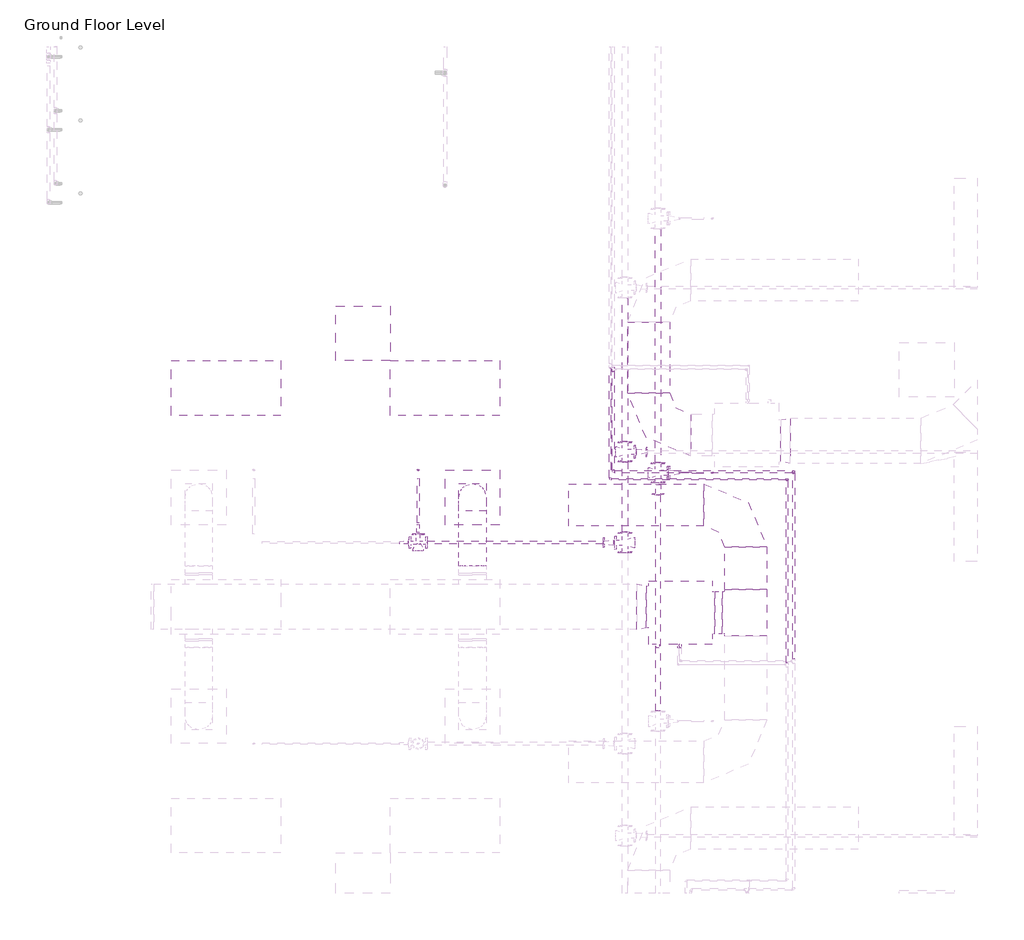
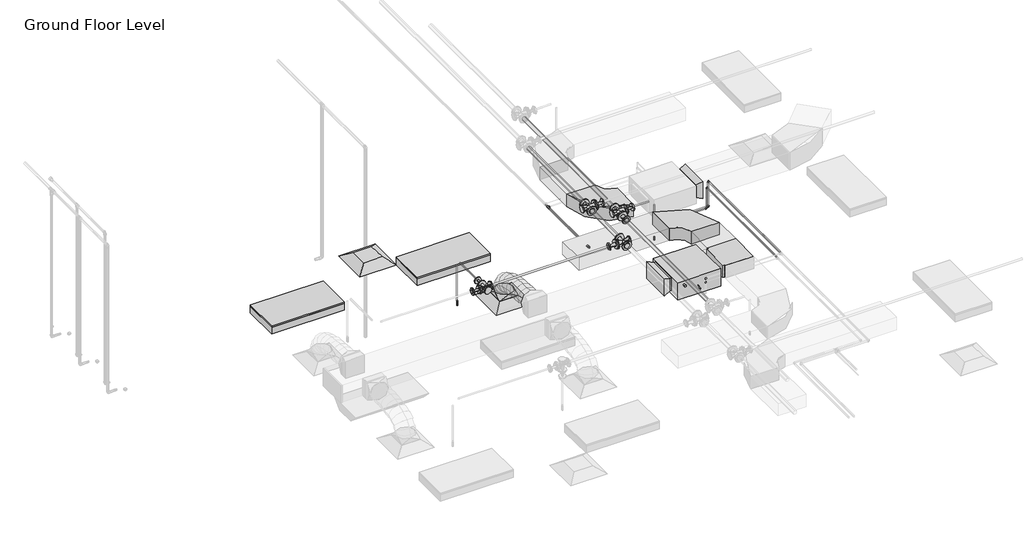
# One storey, part 61 of 72: 17 pipe fittings, 17 pipe segments, 6 duct fittings, 5 duct segments, 2 air terminals, 2 fire suppression terminals, 2 light fixtures, 1 proxy.
"""IFC4 building model written with IfcOpenShell, lengths in millimetres."""

from ifc_helpers import new_model, si_unit, point, frame, frame_2d, origin, place, context, project, spatial, polyline, circle_curve, ellipse_curve, trimmed, segment, composite_curve, outline, extrude, transform, mapped, element, save
from ifc_brep_helpers import plane_surface, cylinder_surface, advanced_brep
from components import m_return_diffuser_600_x_600_face_300_x_300_connection_ff221211, fcu_daikin_iu_bad131e0, m_rectangular_elbow_radius_1_w_54c96895, m_rectangular_tee_standard_fa4de0e8, m_rectangular_transition_angle_45_degree_2b595dfe, m_rectangular_to_round_transition_angle_45_degree_641efff0, m_sprinkler_dry_pendent_hosted_15_mm_dry_pendent_9bda8e11, m_sprinkler_pendent_15_mm_pendent_06fcbd8e, m_troffer_light_parabolic_rectangular1_0600x1200mm_4_lamp_86473d4a, m_elbow_generic_standard_73005802, m_elbow_generic_standard_bb5ffebe, m_reducer_flanged_cs_class_150_standard_ccf252ad, m_reducer_flanged_cs_class_150_standard_9dfe9ec5, m_reducer_flanged_cs_class_150_standard_3ab32b2b, m_reducer_flanged_cs_class_150_standard_a7631c35, m_tee_generic_standard_bbfc025c, m_tee_round_base_flanged_cs_class_150_standard_dd767e04, m_tee_round_base_flanged_cs_class_150_standard_7e5987a1

model = new_model("IFC4")

# Units and contexts
model_context = context("Model", 3, world=origin())
ifc_project = project(units=[si_unit("LENGTHUNIT", "METRE", prefix="MILLI")], contexts=[model_context])

# Site, building, storey
site = spatial("IfcSite", under=ifc_project)
building = spatial("IfcBuilding", under=site)
storey = spatial("IfcBuildingStorey", under=building, Name="Ground Floor Level", Elevation=900.0)

# Air terminals
placement = place(None, origin())
m_return_diffuser_600_x_600_face_300_x_300_connection_shape = m_return_diffuser_600_x_600_face_300_x_300_connection_ff221211(model_context)
element("IfcAirTerminal", 1, ObjectType="M_Return Diffuser : 600 x 600 Face 300 x 300 Connection", at=placement, inside=storey, context=model_context, shape_type="MappedRepresentation", body=[
    mapped(m_return_diffuser_600_x_600_face_300_x_300_connection_shape, transform((2762.7672395, 7135.2153534, 3650.0), x_axis=(1.0, 0.0, 0.0), y_axis=(0.0, 1.0, 0.0), z_axis=(0.0, 0.0, 1.0))),
])
element("IfcAirTerminal", 2, ObjectType="M_Supply Diffuser : 600 x 600 Face 300 x 300 Connection", at=placement, inside=storey, context=model_context, shape_type="MappedRepresentation", body=[
    mapped(m_return_diffuser_600_x_600_face_300_x_300_connection_shape, transform((3962.7672395, 5335.2153534, 3650.0), x_axis=(1.0, 0.0, 0.0), y_axis=(0.0, 1.0, 0.0), z_axis=(0.0, 0.0, 1.0))),
])

# Proxy
fcu_daikin_iu_shape = fcu_daikin_iu_bad131e0(model_context)
element("IfcBuildingElementProxy", 3, Name="FCU-DAIKIN IU : 4.5kW, 230V/50Hz/1Ph", ObjectType="FCU-DAIKIN IU : 4.5kW, 230V/50Hz/1Ph", at=placement, inside=storey, context=model_context, shape_type="MappedRepresentation", body=[
    mapped(fcu_daikin_iu_shape, transform((6243.4139492, 4071.5199167, 3934.0875), x_axis=(0.0, -1.0, 0.0), y_axis=(1.0, 0.0, 0.0), z_axis=(0.0, 0.0, 1.0))),
])

# Duct fittings
m_rectangular_elbow_radius_1_w_shape = m_rectangular_elbow_radius_1_w_54c96895(model_context)
element("IfcDuctFitting", 4, ObjectType="M_Rectangular Elbow - Radius : 1 W", at=placement, inside=storey, context=model_context, shape_type="MappedRepresentation", body=[
    mapped(m_rectangular_elbow_radius_1_w_shape, transform((5893.4139492, 6019.6779527, 4075.2932729), x_axis=(0.0, -1.0, 0.0), y_axis=(1.0, 0.0, 0.0), z_axis=(0.0, 0.0, 1.0))),
])
element("IfcDuctFitting", 5, ObjectType="M_Rectangular Elbow - Radius : 1 W", at=placement, inside=storey, context=model_context, shape_type="MappedRepresentation", body=[
    mapped(m_rectangular_elbow_radius_1_w_shape, transform((6958.8139492, 5251.5199167, 4075.2875), x_axis=(0.0, 1.0, 0.0), y_axis=(-1.0, 0.0, 0.0), z_axis=(0.0, 0.0, 1.0))),
])
m_rectangular_tee_standard_shape = m_rectangular_tee_standard_fa4de0e8(model_context)
element("IfcDuctFitting", 6, ObjectType="M_Rectangular Tee : Standard", at=placement, inside=storey, context=model_context, shape_type="MappedRepresentation", body=[
    mapped(m_rectangular_tee_standard_shape, transform((6958.8139492, 4071.5199167, 4075.2875), x_axis=(0.0, -1.0, 0.0), y_axis=(1.0, 0.0, 0.0), z_axis=(0.0, 0.0, 1.0))),
])
m_rectangular_transition_angle_45_degree_shape = m_rectangular_transition_angle_45_degree_2b595dfe(model_context)
element("IfcDuctFitting", 7, ObjectType="M_Rectangular Transition - Angle : 45 Degree", at=placement, inside=storey, context=model_context, shape_type="MappedRepresentation", body=[
    mapped(m_rectangular_transition_angle_45_degree_shape, transform((7344.2139492, 5956.1779527, 4100.0057729), x_axis=(1.0, 0.0, 0.0), y_axis=(0.0, 1.0, 0.0), z_axis=(0.0, 0.0, 1.0))),
])
element("IfcDuctFitting", 8, ObjectType="M_Rectangular Transition - Angle : 45 Degree", at=placement, inside=storey, context=model_context, shape_type="MappedRepresentation", body=[
    mapped(m_rectangular_transition_angle_45_degree_shape, transform((5868.0139492, 4135.0199167, 4100.0), x_axis=(-1.0, 0.0, 0.0), y_axis=(0.0, -1.0, 0.0), z_axis=(0.0, 0.0, 1.0))),
])
m_rectangular_to_round_transition_angle_45_degree_shape = m_rectangular_to_round_transition_angle_45_degree_641efff0(model_context)
element("IfcDuctFitting", 9, ObjectType="M_Rectangular to Round Transition - Angle : 45 Degree", at=placement, inside=storey, context=model_context, shape_type="MappedRepresentation", body=[
    mapped(m_rectangular_to_round_transition_angle_45_degree_shape, transform((3962.7672395, 5335.2153534, 3751.6), x_axis=(0.0, 0.0, 1.0), y_axis=(-1.0, 0.0, 0.0), z_axis=(0.0, -1.0, 0.0))),
])

# Duct segments
element("IfcDuctSegment", 10, ObjectType="Flex - Round", at=placement, inside=storey, context=model_context, shape_type="AdvancedBrep", body=[
    advanced_brep(
    [(4112.7672395, 5335.2153534, 3826.6), (3962.7672395, 5185.2153534, 3826.6), (3812.7672395, 5335.2153534, 3826.6), (3962.7672395, 5485.2153534, 3826.6), (4112.7672395, 5335.2153534, 3857.9378899), (3962.7672395, 5185.2153534, 3832.2944495), (3812.7672395, 5335.2153534, 3857.9378899), (3962.7672395, 5485.2153534, 3883.5813304), (4112.7672395, 5318.1993029, 3906.2506504), (3962.7672395, 5184.4615918, 3834.4345644), (3812.7672395, 5318.1993029, 3906.2506504), (3962.7672395, 5451.9370141, 3978.0667363), (4112.7672395, 5271.0151016, 3968.7111185), (3962.7672395, 5166.8099301, 3857.8010943), (3812.7672395, 5271.0151016, 3968.7111185), (3962.7672395, 5375.220273, 4079.6211427), (4112.7672395, 5199.4586743, 4016.0693384), (3962.7672395, 5130.5257656, 3881.8150579), (3812.7672395, 5199.4586743, 4016.0693384), (3962.7672395, 5268.3915831, 4150.3236188), (4112.7672395, 5109.3259463, 4050.413244), (3962.7672395, 5065.7664368, 3906.4907592), (3812.7672395, 5109.3259463, 4050.413244), (3962.7672395, 5152.8854558, 4194.3357287), (4112.7672395, 5006.4128425, 4073.8307693), (3962.7672395, 4979.8531069, 3926.0400441), (3812.7672395, 5006.4128425, 4073.8307693), (3962.7672395, 5032.9725781, 4221.6214946), (4112.7672395, 4896.5152879, 4088.4098484), (3962.7672395, 4881.3654185, 3939.1054831), (3812.7672395, 4896.5152879, 4088.4098484), (3962.7672395, 4911.6651573, 4237.7142137), (4112.7672395, 4785.4292075, 4096.2384151), (3962.7672395, 4777.924683, 3946.3952596), (3812.7672395, 4785.4292075, 4096.2384151), (3962.7672395, 4792.9337321, 4246.0815706), (4112.7672395, 4678.9505265, 4099.4044036), (3962.7672395, 4676.2595056, 3949.4181256), (3812.7672395, 4678.9505265, 4099.4044036), (3962.7672395, 4681.6415474, 4249.3906816), (4112.7672395, 4582.8751699, 4099.9957478), (3962.7672395, 4583.7984029, 4249.9929065), (3812.7672395, 4582.8751699, 4099.9957478), (3962.7672395, 4581.9519368, 3949.998589)],
    [
        (0, 1, circle_curve(frame((3962.7672395, 5335.2153534, 3826.6), z_axis=(0.0, 0.0, -1.0), x_axis=(1.0, 0.0, 0.0)), 150.0)),
        (1, 2, circle_curve(frame((3962.7672395, 5335.2153534, 3826.6), z_axis=(0.0, 0.0, -1.0), x_axis=(1.0, 0.0, 0.0)), 150.0)),
        (2, 3, circle_curve(frame((3962.7672395, 5335.2153534, 3826.6), z_axis=(0.0, 0.0, -1.0), x_axis=(1.0, 0.0, 0.0)), 150.0)),
        (3, 0, circle_curve(frame((3962.7672395, 5335.2153534, 3826.6), z_axis=(0.0, 0.0, -1.0), x_axis=(1.0, 0.0, 0.0)), 150.0)),
        (0, 4),
        (4, 5, ellipse_curve(frame((3962.7672395, 5335.2153534, 3857.9378899), z_axis=(0.0, 0.1685115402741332, -0.9856996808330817), x_axis=(0.0, -0.9856996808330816, -0.16851154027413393)), 152.1761678, 150.0)),
        (5, 1),
        (5, 6, ellipse_curve(frame((3962.7672395, 5335.2153534, 3857.9378899), z_axis=(0.0, 0.1685115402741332, -0.9856996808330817), x_axis=(0.0, -0.9856996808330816, -0.16851154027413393)), 152.1761678, 150.0)),
        (6, 2),
        (6, 7, ellipse_curve(frame((3962.7672395, 5335.2153534, 3857.9378899), z_axis=(0.0, 0.1685115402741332, -0.9856996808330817), x_axis=(0.0, -0.9856996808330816, -0.16851154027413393)), 152.1761678, 150.0)),
        (7, 3),
        (7, 4, ellipse_curve(frame((3962.7672395, 5335.2153534, 3857.9378899), z_axis=(0.0, 0.1685115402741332, -0.9856996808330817), x_axis=(0.0, -0.9856996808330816, -0.16851154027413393)), 152.1761678, 150.0)),
        (4, 8),
        (8, 9, ellipse_curve(frame((3962.7672395, 5318.1993029, 3906.2506504), z_axis=(0.0, 0.47309586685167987, -0.8810109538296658), x_axis=(0.0, -0.8810109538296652, -0.4730958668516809)), 151.8002819, 150.0)),
        (9, 5),
        (9, 10, ellipse_curve(frame((3962.7672395, 5318.1993029, 3906.2506504), z_axis=(0.0, 0.47309586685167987, -0.8810109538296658), x_axis=(0.0, -0.8810109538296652, -0.4730958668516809)), 151.8002819, 150.0)),
        (10, 6),
        (10, 11, ellipse_curve(frame((3962.7672395, 5318.1993029, 3906.2506504), z_axis=(0.0, 0.47309586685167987, -0.8810109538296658), x_axis=(0.0, -0.8810109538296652, -0.4730958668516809)), 151.8002819, 150.0)),
        (11, 7),
        (11, 8, ellipse_curve(frame((3962.7672395, 5318.1993029, 3906.2506504), z_axis=(0.0, 0.47309586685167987, -0.8810109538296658), x_axis=(0.0, -0.8810109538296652, -0.4730958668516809)), 151.8002819, 150.0)),
        (8, 12),
        (12, 13, ellipse_curve(frame((3962.7672395, 5271.0151016, 3968.7111185), z_axis=(0.0, 0.7287924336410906, -0.6847346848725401), x_axis=(0.0, -0.6847346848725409, -0.7287924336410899)), 152.1832817, 150.0)),
        (13, 9),
        (13, 14, ellipse_curve(frame((3962.7672395, 5271.0151016, 3968.7111185), z_axis=(0.0, 0.7287924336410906, -0.6847346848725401), x_axis=(0.0, -0.6847346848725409, -0.7287924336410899)), 152.1832817, 150.0)),
        (14, 10),
        (14, 15, ellipse_curve(frame((3962.7672395, 5271.0151016, 3968.7111185), z_axis=(0.0, 0.7287924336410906, -0.6847346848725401), x_axis=(0.0, -0.6847346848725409, -0.7287924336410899)), 152.1832817, 150.0)),
        (15, 11),
        (15, 12, ellipse_curve(frame((3962.7672395, 5271.0151016, 3968.7111185), z_axis=(0.0, 0.7287924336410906, -0.6847346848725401), x_axis=(0.0, -0.6847346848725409, -0.7287924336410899)), 152.1832817, 150.0)),
        (12, 16),
        (16, 17, ellipse_curve(frame((3962.7672395, 5199.4586743, 4016.0693384), z_axis=(0.0, 0.8895898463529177, -0.45676022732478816), x_axis=(0.0, -0.456760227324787, -0.8895898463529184)), 150.9170558, 150.0)),
        (17, 13),
        (17, 18, ellipse_curve(frame((3962.7672395, 5199.4586743, 4016.0693384), z_axis=(0.0, 0.8895898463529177, -0.45676022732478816), x_axis=(0.0, -0.456760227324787, -0.8895898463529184)), 150.9170558, 150.0)),
        (18, 14),
        (18, 19, ellipse_curve(frame((3962.7672395, 5199.4586743, 4016.0693384), z_axis=(0.0, 0.8895898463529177, -0.45676022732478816), x_axis=(0.0, -0.456760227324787, -0.8895898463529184)), 150.9170558, 150.0)),
        (19, 15),
        (19, 16, ellipse_curve(frame((3962.7672395, 5199.4586743, 4016.0693384), z_axis=(0.0, 0.8895898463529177, -0.45676022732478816), x_axis=(0.0, -0.456760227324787, -0.8895898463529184)), 150.9170558, 150.0)),
        (16, 20),
        (20, 21, ellipse_curve(frame((3962.7672395, 5109.3259463, 4050.413244), z_axis=(0.0, 0.9571228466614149, -0.28968233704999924), x_axis=(0.0, -0.28968233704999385, -0.9571228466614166)), 150.3699188, 150.0)),
        (21, 17),
        (21, 22, ellipse_curve(frame((3962.7672395, 5109.3259463, 4050.413244), z_axis=(0.0, 0.9571228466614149, -0.28968233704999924), x_axis=(0.0, -0.28968233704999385, -0.9571228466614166)), 150.3699188, 150.0)),
        (22, 18),
        (22, 23, ellipse_curve(frame((3962.7672395, 5109.3259463, 4050.413244), z_axis=(0.0, 0.9571228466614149, -0.28968233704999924), x_axis=(0.0, -0.28968233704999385, -0.9571228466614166)), 150.3699188, 150.0)),
        (23, 19),
        (23, 20, ellipse_curve(frame((3962.7672395, 5109.3259463, 4050.413244), z_axis=(0.0, 0.9571228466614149, -0.28968233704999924), x_axis=(0.0, -0.28968233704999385, -0.9571228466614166)), 150.3699188, 150.0)),
        (20, 24),
        (24, 25, ellipse_curve(frame((3962.7672395, 5006.4128425, 4073.8307693), z_axis=(0.0, 0.9842327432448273, -0.17687822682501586), x_axis=(0.0, -0.176878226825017, -0.9842327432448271)), 150.1583099, 150.0)),
        (25, 21),
        (25, 26, ellipse_curve(frame((3962.7672395, 5006.4128425, 4073.8307693), z_axis=(0.0, 0.9842327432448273, -0.17687822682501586), x_axis=(0.0, -0.176878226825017, -0.9842327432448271)), 150.1583099, 150.0)),
        (26, 22),
        (26, 27, ellipse_curve(frame((3962.7672395, 5006.4128425, 4073.8307693), z_axis=(0.0, 0.9842327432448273, -0.17687822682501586), x_axis=(0.0, -0.176878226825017, -0.9842327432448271)), 150.1583099, 150.0)),
        (27, 23),
        (27, 24, ellipse_curve(frame((3962.7672395, 5006.4128425, 4073.8307693), z_axis=(0.0, 0.9842327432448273, -0.17687822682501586), x_axis=(0.0, -0.176878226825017, -0.9842327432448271)), 150.1583099, 150.0)),
        (24, 28),
        (28, 29, ellipse_curve(frame((3962.7672395, 4896.5152879, 4088.4098484), z_axis=(0.0, 0.9948913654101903, -0.10095133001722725), x_axis=(0.0, -0.10095133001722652, -0.9948913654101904)), 150.0710233, 150.0)),
        (29, 25),
        (29, 30, ellipse_curve(frame((3962.7672395, 4896.5152879, 4088.4098484), z_axis=(0.0, 0.9948913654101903, -0.10095133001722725), x_axis=(0.0, -0.10095133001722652, -0.9948913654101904)), 150.0710233, 150.0)),
        (30, 26),
        (30, 31, ellipse_curve(frame((3962.7672395, 4896.5152879, 4088.4098484), z_axis=(0.0, 0.9948913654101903, -0.10095133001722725), x_axis=(0.0, -0.10095133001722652, -0.9948913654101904)), 150.0710233, 150.0)),
        (31, 27),
        (31, 28, ellipse_curve(frame((3962.7672395, 4896.5152879, 4088.4098484), z_axis=(0.0, 0.9948913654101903, -0.10095133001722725), x_axis=(0.0, -0.10095133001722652, -0.9948913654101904)), 150.0710233, 150.0)),
        (28, 32),
        (32, 33, ellipse_curve(frame((3962.7672395, 4785.4292075, 4096.2384151), z_axis=(0.0, 0.9987482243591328, -0.05001983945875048), x_axis=(0.0, -0.05001983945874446, -0.9987482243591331)), 150.0309606, 150.0)),
        (33, 29),
        (33, 34, ellipse_curve(frame((3962.7672395, 4785.4292075, 4096.2384151), z_axis=(0.0, 0.9987482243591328, -0.05001983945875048), x_axis=(0.0, -0.05001983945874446, -0.9987482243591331)), 150.0309606, 150.0)),
        (34, 30),
        (34, 35, ellipse_curve(frame((3962.7672395, 4785.4292075, 4096.2384151), z_axis=(0.0, 0.9987482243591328, -0.05001983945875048), x_axis=(0.0, -0.05001983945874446, -0.9987482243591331)), 150.0309606, 150.0)),
        (35, 31),
        (35, 32, ellipse_curve(frame((3962.7672395, 4785.4292075, 4096.2384151), z_axis=(0.0, 0.9987482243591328, -0.05001983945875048), x_axis=(0.0, -0.05001983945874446, -0.9987482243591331)), 150.0309606, 150.0)),
        (32, 36),
        (36, 37, ellipse_curve(frame((3962.7672395, 4678.9505265, 4099.4044036), z_axis=(0.0, 0.9998390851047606, -0.017938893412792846), x_axis=(0.0, -0.01793889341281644, -0.99983908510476)), 150.0104169, 150.0)),
        (37, 33),
        (37, 38, ellipse_curve(frame((3962.7672395, 4678.9505265, 4099.4044036), z_axis=(0.0, 0.9998390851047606, -0.017938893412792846), x_axis=(0.0, -0.01793889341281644, -0.99983908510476)), 150.0104169, 150.0)),
        (38, 34),
        (38, 39, ellipse_curve(frame((3962.7672395, 4678.9505265, 4099.4044036), z_axis=(0.0, 0.9998390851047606, -0.017938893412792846), x_axis=(0.0, -0.01793889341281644, -0.99983908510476)), 150.0104169, 150.0)),
        (39, 35),
        (39, 36, ellipse_curve(frame((3962.7672395, 4678.9505265, 4099.4044036), z_axis=(0.0, 0.9998390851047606, -0.017938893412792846), x_axis=(0.0, -0.01793889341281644, -0.99983908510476)), 150.0104169, 150.0)),
        (40, 41, circle_curve(frame((3962.7672395, 4582.8751699, 4099.9957478), z_axis=(0.0, -0.9999810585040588, 0.006154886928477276), x_axis=(1.0, 0.0, 0.0)), 150.0)),
        (41, 42, circle_curve(frame((3962.7672395, 4582.8751699, 4099.9957478), z_axis=(0.0, -0.9999810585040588, 0.006154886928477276), x_axis=(1.0, 0.0, 0.0)), 150.0)),
        (42, 43, circle_curve(frame((3962.7672395, 4582.8751699, 4099.9957478), z_axis=(0.0, -0.9999810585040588, 0.006154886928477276), x_axis=(1.0, 0.0, 0.0)), 150.0)),
        (43, 40, circle_curve(frame((3962.7672395, 4582.8751699, 4099.9957478), z_axis=(0.0, -0.9999810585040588, 0.006154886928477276), x_axis=(1.0, 0.0, 0.0)), 150.0)),
        (36, 40),
        (43, 37),
        (42, 38),
        (41, 39),
    ],
    [
        plane_surface(frame((3962.7672395, 5185.2153534, 3826.6), z_axis=(0.0, 0.0, -1.0), x_axis=(1.0, 0.0, 0.0))),
        cylinder_surface(frame((3962.7672395, 5335.2153534, 3826.6), z_axis=(0.0, 0.0, -1.0), x_axis=(1.0, 0.0, 0.0)), 150.0),
        cylinder_surface(frame((3962.7672395, 5335.2153534, 3857.9378899), z_axis=(0.0, 0.3322035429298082, -0.9432077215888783), x_axis=(1.0, 0.0, 0.0)), 150.0),
        cylinder_surface(frame((3962.7672395, 5318.1993029, 3906.2506504), z_axis=(0.0, 0.6027667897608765, -0.797917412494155), x_axis=(1.0, 0.0, 0.0)), 150.0),
        cylinder_surface(frame((3962.7672395, 5271.0151016, 3968.7111185), z_axis=(0.0, 0.8339069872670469, -0.5519050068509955), x_axis=(1.0, 0.0, 0.0)), 150.0),
        cylinder_surface(frame((3962.7672395, 5199.4586743, 4016.0693384), z_axis=(0.0, 0.934461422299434, -0.35606439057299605), x_axis=(1.0, 0.0, 0.0)), 150.0),
        cylinder_surface(frame((3962.7672395, 5109.3259463, 4050.413244), z_axis=(0.0, 0.9750751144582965, -0.22187501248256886), x_axis=(1.0, 0.0, 0.0)), 150.0),
        cylinder_surface(frame((3962.7672395, 5006.4128425, 4073.8307693), z_axis=(0.0, 0.9913150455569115, -0.1315084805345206), x_axis=(1.0, 0.0, 0.0)), 150.0),
        cylinder_surface(frame((3962.7672395, 4896.5152879, 4088.4098484), z_axis=(0.0, 0.997525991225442, -0.07029862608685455), x_axis=(1.0, 0.0, 0.0)), 150.0),
        cylinder_surface(frame((3962.7672395, 4785.4292075, 4096.2384151), z_axis=(0.0, 0.9995582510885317, -0.029720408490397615), x_axis=(1.0, 0.0, 0.0)), 150.0),
        plane_surface(frame((3962.7672395, 4581.9519368, 3949.998589), z_axis=(0.0, -0.9999810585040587, 0.006154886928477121), x_axis=(1.0, 0.0, 0.0))),
        cylinder_surface(frame((3962.7672395, 4678.9505265, 4099.4044036), z_axis=(0.0, 0.9999810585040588, -0.006154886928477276), x_axis=(1.0, 0.0, 0.0)), 150.0),
    ],
    [
        (0, [[1, 2, 3, 4]]),
        (1, [[-1, 5, 6, 7]]),
        (1, [[-2, -7, 8, 9]]),
        (1, [[-3, -9, 10, 11]]),
        (1, [[-4, -11, 12, -5]]),
        (2, [[-6, 13, 14, 15]]),
        (2, [[-8, -15, 16, 17]]),
        (2, [[-10, -17, 18, 19]]),
        (2, [[-12, -19, 20, -13]]),
        (3, [[-14, 21, 22, 23]]),
        (3, [[-16, -23, 24, 25]]),
        (3, [[-18, -25, 26, 27]]),
        (3, [[-20, -27, 28, -21]]),
        (4, [[-22, 29, 30, 31]]),
        (4, [[-24, -31, 32, 33]]),
        (4, [[-26, -33, 34, 35]]),
        (4, [[-28, -35, 36, -29]]),
        (5, [[-30, 37, 38, 39]]),
        (5, [[-32, -39, 40, 41]]),
        (5, [[-34, -41, 42, 43]]),
        (5, [[-36, -43, 44, -37]]),
        (6, [[-38, 45, 46, 47]]),
        (6, [[-40, -47, 48, 49]]),
        (6, [[-42, -49, 50, 51]]),
        (6, [[-44, -51, 52, -45]]),
        (7, [[-46, 53, 54, 55]]),
        (7, [[-48, -55, 56, 57]]),
        (7, [[-50, -57, 58, 59]]),
        (7, [[-52, -59, 60, -53]]),
        (8, [[-54, 61, 62, 63]]),
        (8, [[-56, -63, 64, 65]]),
        (8, [[-58, -65, 66, 67]]),
        (8, [[-60, -67, 68, -61]]),
        (9, [[-62, 69, 70, 71]]),
        (9, [[-64, -71, 72, 73]]),
        (9, [[-66, -73, 74, 75]]),
        (9, [[-68, -75, 76, -69]]),
        (10, [[77, 78, 79, 80]]),
        (11, [[-70, 81, -80, 82]]),
        (11, [[-72, -82, -79, 83]]),
        (11, [[-74, -83, -78, 84]]),
        (11, [[-76, -84, -77, -81]]),
    ],
),
])
element("IfcDuctSegment", 11, ObjectType="Radius Elbows / Taps", at=placement, inside=storey, context=model_context, shape_type="SweptSolid", body=[
    extrude(outline(polyline([(6124.3514492, 6481.5529527), (5662.4764492, 6481.5529527), (5662.4764492, 7257.8033949), (6124.3514492, 7257.8033949), (6124.3514492, 6481.5529527)])), frame((0.0, 0.0, 3968.1432729), z_axis=(0.0, 0.0, 1.0), x_axis=(1.0, 0.0, 0.0)), (0.0, 0.0, 1.0), 214.3),
])
element("IfcDuctSegment", 12, ObjectType="Radius Elbows / Taps", at=placement, inside=storey, context=model_context, shape_type="SweptSolid", body=[
    extrude(outline(polyline([(6618.8139492, 3840.5824167), (6618.8139492, 4302.4574167), (6702.8764492, 4302.4574167), (6702.8764492, 3840.5824167), (6618.8139492, 3840.5824167)])), frame((0.0, 0.0, 3968.1375), z_axis=(0.0, 0.0, 1.0), x_axis=(1.0, 0.0, 0.0)), (0.0, 0.0, 1.0), 214.3),
])
element("IfcDuctSegment", 13, ObjectType="Radius Elbows / Taps", at=placement, inside=storey, context=model_context, shape_type="SweptSolid", body=[
    extrude(outline(polyline([(7189.7514492, 4327.4574167), (6727.8764492, 4327.4574167), (6727.8764492, 4789.6449167), (7189.7514492, 4789.6449167), (7189.7514492, 4327.4574167)])), frame((0.0, 0.0, 3968.1375), z_axis=(0.0, 0.0, 1.0), x_axis=(1.0, 0.0, 0.0)), (0.0, 0.0, 1.0), 214.3),
])
element("IfcDuctSegment", 14, ObjectType="Radius Elbows / Taps", at=placement, inside=storey, context=model_context, shape_type="SweptSolid", body=[
    extrude(outline(polyline([(6496.9389492, 5482.4574167), (6496.9389492, 5020.5824167), (5018.8139492, 5020.5824167), (5018.8139492, 5482.4574167), (6496.9389492, 5482.4574167)])), frame((0.0, 0.0, 3968.1375), z_axis=(0.0, 0.0, 1.0), x_axis=(1.0, 0.0, 0.0)), (0.0, 0.0, 1.0), 214.3),
])

# Fire suppression terminals
m_sprinkler_dry_pendent_hosted_15_mm_dry_pendent_shape = m_sprinkler_dry_pendent_hosted_15_mm_dry_pendent_9bda8e11(model_context)
element("IfcFireSuppressionTerminal", 15, ObjectType="M_Sprinkler - Dry - Pendent - Hosted : 15 mm Dry Pendent", at=placement, inside=storey, context=model_context, shape_type="MappedRepresentation", body=[
    mapped(m_sprinkler_dry_pendent_hosted_15_mm_dry_pendent_shape, transform((3367.3772563, 5635.2153534, 3650.0), x_axis=(1.0, 0.0, 0.0), y_axis=(0.0, -1.0, 0.0), z_axis=(0.0, 0.0, -1.0))),
])
m_sprinkler_pendent_15_mm_pendent_shape = m_sprinkler_pendent_15_mm_pendent_06fcbd8e(model_context)
element("IfcFireSuppressionTerminal", 16, ObjectType="M_Sprinkler - Pendent : 15 mm Pendent", at=placement, inside=storey, context=model_context, shape_type="MappedRepresentation", body=[
    mapped(m_sprinkler_pendent_15_mm_pendent_shape, transform((6592.5481019, 5605.2153637, 3650.0), x_axis=(1.0, 0.0, 0.0), y_axis=(0.0, 1.0, 0.0), z_axis=(0.0, 0.0, 1.0))),
])

# Light fixtures
m_troffer_light_parabolic_rectangular1_0600x1200mm_4_lamp_shape = m_troffer_light_parabolic_rectangular1_0600x1200mm_4_lamp_86473d4a(model_context)
element("IfcLightFixture", 17, ObjectType="M_Troffer Light - Parabolic Rectangular1 : 0600x1200mm(4 Lamp) - 277V 2", at=placement, inside=storey, context=model_context, shape_type="MappedRepresentation", body=[
    mapped(m_troffer_light_parabolic_rectangular1_0600x1200mm_4_lamp_shape, transform((1281.4707411, 6594.6812855, 3650.0), x_axis=(1.0, 0.0, 0.0), y_axis=(0.0, 1.0, 0.0), z_axis=(0.0, 0.0, 1.0))),
])
element("IfcLightFixture", 18, ObjectType="M_Troffer Light - Parabolic Rectangular1 : 0600x1200mm(4 Lamp) - 277V 2", at=placement, inside=storey, context=model_context, shape_type="MappedRepresentation", body=[
    mapped(m_troffer_light_parabolic_rectangular1_0600x1200mm_4_lamp_shape, transform((3681.4707411, 6594.6812855, 3650.0), x_axis=(1.0, 0.0, 0.0), y_axis=(0.0, 1.0, 0.0), z_axis=(0.0, 0.0, 1.0))),
])

# Pipe fittings
m_elbow_generic_standard_shape = m_elbow_generic_standard_73005802(model_context)
element("IfcPipeFitting", 19, ObjectType="M_Elbow - Generic : Standard", at=placement, inside=storey, context=model_context, shape_type="MappedRepresentation", body=[
    mapped(m_elbow_generic_standard_shape, transform((7485.0672395, 5616.0098545, 4300.0), x_axis=(0.0, 1.0, 0.0), y_axis=(0.0, 0.0, -1.0), z_axis=(-1.0, 0.0, 0.0))),
])
element("IfcPipeFitting", 20, ObjectType="M_Elbow - Generic : Standard", at=placement, inside=storey, context=model_context, shape_type="MappedRepresentation", body=[
    mapped(m_elbow_generic_standard_shape, transform((7485.0672395, 5616.0098545, 3851.8370709), x_axis=(0.0, 0.0, -1.0), y_axis=(-1.0, 0.0, 0.0), z_axis=(0.0, 1.0, 0.0))),
])
element("IfcPipeFitting", 21, ObjectType="M_Elbow - Generic : Standard", at=placement, inside=storey, context=model_context, shape_type="MappedRepresentation", body=[
    mapped(m_elbow_generic_standard_shape, transform((5505.0672395, 5616.0098545, 3851.8370709), x_axis=(0.0, -1.0, 0.0), y_axis=(1.0, 0.0, 0.0), z_axis=(0.0, 0.0, 1.0))),
])
m_elbow_generic_standard_2_shape = m_elbow_generic_standard_bb5ffebe(model_context)
element("IfcPipeFitting", 22, ObjectType="M_Elbow - Generic : Standard", at=placement, inside=storey, context=model_context, shape_type="MappedRepresentation", body=[
    mapped(m_elbow_generic_standard_2_shape, transform((7412.2057053, 5534.0185138, 4265.0), x_axis=(0.0, 1.0, 0.0), y_axis=(0.0, 0.0, -1.0), z_axis=(-1.0, 0.0, 0.0))),
])
element("IfcPipeFitting", 23, ObjectType="M_Elbow - Generic : Standard", at=placement, inside=storey, context=model_context, shape_type="MappedRepresentation", body=[
    mapped(m_elbow_generic_standard_2_shape, transform((7412.2057053, 5534.0185138, 3894.9), x_axis=(0.0, 0.0, -1.0), y_axis=(-1.0, 0.0, 0.0), z_axis=(0.0, 1.0, 0.0))),
])
element("IfcPipeFitting", 24, ObjectType="M_Elbow - Generic : Standard", at=placement, inside=storey, context=model_context, shape_type="MappedRepresentation", body=[
    mapped(m_elbow_generic_standard_2_shape, transform((5472.2057053, 5534.0185138, 3894.9), x_axis=(0.0, -1.0, 0.0), y_axis=(1.0, 0.0, 0.0), z_axis=(0.0, 0.0, 1.0))),
])
m_reducer_flanged_cs_class_150_standard_shape = m_reducer_flanged_cs_class_150_standard_ccf252ad(model_context)
element("IfcPipeFitting", 25, ObjectType="M_Reducer - Flanged - CS - Class 150 : Standard", at=placement, inside=storey, context=model_context, shape_type="MappedRepresentation", body=[
    mapped(m_reducer_flanged_cs_class_150_standard_shape, transform((3367.3772563, 4940.578485, 4360.0), x_axis=(0.0, 1.0, 0.0), y_axis=(-1.0, 0.0, 0.0), z_axis=(0.0, 0.0, 1.0))),
])
element("IfcPipeFitting", 26, ObjectType="M_Reducer - Flanged - CS - Class 150 : Standard", at=placement, inside=storey, context=model_context, shape_type="MappedRepresentation", body=[
    mapped(m_reducer_flanged_cs_class_150_standard_shape, transform((3266.6686625, 4839.8698912, 4360.0), x_axis=(-1.0, 0.0, 0.0), y_axis=(0.0, -1.0, 0.0), z_axis=(0.0, 0.0, 1.0))),
])
m_reducer_flanged_cs_class_150_standard_2_shape = m_reducer_flanged_cs_class_150_standard_9dfe9ec5(model_context)
element("IfcPipeFitting", 27, ObjectType="M_Reducer - Flanged - CS - Class 150 : Standard", at=placement, inside=storey, context=model_context, shape_type="MappedRepresentation", body=[
    mapped(m_reducer_flanged_cs_class_150_standard_2_shape, transform((6111.057812, 5605.2153637, 4291.250653), x_axis=(1.0, 0.0, 0.0), y_axis=(0.0, 0.0, -1.0), z_axis=(0.0, 1.0, 0.0))),
])
m_reducer_flanged_cs_class_150_standard_3_shape = m_reducer_flanged_cs_class_150_standard_3ab32b2b(model_context)
element("IfcPipeFitting", 28, ObjectType="M_Reducer - Flanged - CS - Class 150 : Standard", at=placement, inside=storey, context=model_context, shape_type="MappedRepresentation", body=[
    mapped(m_reducer_flanged_cs_class_150_standard_3_shape, transform((5997.057812, 5491.2153637, 4291.0695218), x_axis=(0.0, -1.0, 0.0), y_axis=(1.0, 0.0, 0.0), z_axis=(0.0, 0.0, 1.0))),
])
m_reducer_flanged_cs_class_150_standard_4_shape = m_reducer_flanged_cs_class_150_standard_a7631c35(model_context)
element("IfcPipeFitting", 29, ObjectType="M_Reducer - Flanged - CS - Class 150 : Standard", at=placement, inside=storey, context=model_context, shape_type="MappedRepresentation", body=[
    mapped(m_reducer_flanged_cs_class_150_standard_4_shape, transform((5749.869498, 5835.2153534, 4360.0), x_axis=(1.0, 0.0, 0.0), y_axis=(0.0, 0.0, 1.0), z_axis=(0.0, -1.0, 0.0))),
])
element("IfcPipeFitting", 30, ObjectType="M_Reducer - Flanged - CS - Class 150 : Standard", at=placement, inside=storey, context=model_context, shape_type="MappedRepresentation", body=[
    mapped(m_reducer_flanged_cs_class_150_standard_4_shape, transform((5521.869498, 4839.8698912, 4360.0), x_axis=(-1.0, 0.0, 0.0), y_axis=(0.0, -1.0, 0.0), z_axis=(0.0, 0.0, 1.0))),
])
m_tee_generic_standard_shape = m_tee_generic_standard_bbfc025c(model_context)
element("IfcPipeFitting", 31, ObjectType="M_Tee - Generic : Standard", at=placement, inside=storey, context=model_context, shape_type="MappedRepresentation", body=[
    mapped(m_tee_generic_standard_shape, transform((5505.0672395, 6741.4098545, 3851.8370709), x_axis=(0.0, 1.0, 0.0), y_axis=(-1.0, 0.0, 0.0), z_axis=(0.0, 0.0, 1.0))),
])
m_tee_round_base_flanged_cs_class_150_standard_shape = m_tee_round_base_flanged_cs_class_150_standard_dd767e04(model_context)
element("IfcPipeFitting", 32, ObjectType="M_Tee Round Base - Flanged - CS - Class 150 : Standard", at=placement, inside=storey, context=model_context, shape_type="MappedRepresentation", body=[
    mapped(m_tee_round_base_flanged_cs_class_150_standard_shape, transform((5997.057812, 5605.2153637, 4291.0695218), x_axis=(0.0, 1.0, 0.0), y_axis=(-1.0, 0.0, 0.0), z_axis=(0.0, 0.0, 1.0))),
])
element("IfcPipeFitting", 33, ObjectType="M_Tee Round Base - Flanged - CS - Class 150 : Standard", at=placement, inside=storey, context=model_context, shape_type="MappedRepresentation", body=[
    mapped(m_tee_round_base_flanged_cs_class_150_standard_shape, transform((5635.869498, 5835.2153534, 4360.0), x_axis=(0.0, 1.0, 0.0), y_axis=(-1.0, 0.0, 0.0), z_axis=(0.0, 0.0, 1.0))),
])
element("IfcPipeFitting", 34, ObjectType="M_Tee Round Base - Flanged - CS - Class 150 : Standard", at=placement, inside=storey, context=model_context, shape_type="MappedRepresentation", body=[
    mapped(m_tee_round_base_flanged_cs_class_150_standard_shape, transform((5635.869498, 4839.8698912, 4360.0), x_axis=(0.0, 1.0, 0.0), y_axis=(1.0, 0.0, 0.0), z_axis=(0.0, 0.0, -1.0))),
])
m_tee_round_base_flanged_cs_class_150_standard_2_shape = m_tee_round_base_flanged_cs_class_150_standard_7e5987a1(model_context)
element("IfcPipeFitting", 35, ObjectType="M_Tee Round Base - Flanged - CS - Class 150 : Standard", at=placement, inside=storey, context=model_context, shape_type="MappedRepresentation", body=[
    mapped(m_tee_round_base_flanged_cs_class_150_standard_2_shape, transform((3367.3772563, 4839.8698912, 4360.0), x_axis=(1.0, 0.0, 0.0), y_axis=(0.0, -1.0, 0.0), z_axis=(0.0, 0.0, -1.0))),
])

# Pipe segments
element("IfcPipeSegment", 36, ObjectType="Copper", at=placement, inside=storey, context=model_context, shape_type="SweptSolid", body=[
    extrude(outline(composite_curve([segment(trimmed(circle_curve(frame_2d((3894.9, 5472.2057053)), 8.1), [point((3894.9, 5464.1057053))], [point((3886.8, 5472.2057053))], False, "CARTESIAN"), True, "CONTINUOUS"), segment(trimmed(circle_curve(frame_2d((3894.9, 5472.2057053)), 8.1), [point((3886.8, 5472.2057053))], [point((3894.9, 5480.3057053))], False, "CARTESIAN"), True, "CONTINUOUS"), segment(trimmed(circle_curve(frame_2d((3894.9, 5472.2057053)), 8.1), [point((3894.9, 5480.3057053))], [point((3903.0, 5472.2057053))], False, "CARTESIAN"), True, "CONTINUOUS"), segment(trimmed(circle_curve(frame_2d((3894.9, 5472.2057053)), 8.1), [point((3903.0, 5472.2057053))], [point((3894.9, 5464.1057053))], False, "CARTESIAN"), True, "CONTINUOUS")], self_intersect=False)), frame((0.0, 5549.8935138, 0.0), z_axis=(0.0, 1.0, 0.0), x_axis=(0.0, 0.0, 1.0)), (0.0, 0.0, 1.0), 1209.4068236),
])
element("IfcPipeSegment", 37, ObjectType="Copper", at=placement, inside=storey, context=model_context, shape_type="SweptSolid", body=[
    extrude(outline(composite_curve([segment(trimmed(circle_curve(frame_2d((3851.8370709, 5505.0672395)), 11.5), [point((3851.8370709, 5493.5672395))], [point((3840.3370709, 5505.0672395))], False, "CARTESIAN"), True, "CONTINUOUS"), segment(trimmed(circle_curve(frame_2d((3851.8370709, 5505.0672395)), 11.5), [point((3840.3370709, 5505.0672395))], [point((3851.8370709, 5516.5672395))], False, "CARTESIAN"), True, "CONTINUOUS"), segment(trimmed(circle_curve(frame_2d((3851.8370709, 5505.0672395)), 11.5), [point((3851.8370709, 5516.5672395))], [point((3863.3370709, 5505.0672395))], False, "CARTESIAN"), True, "CONTINUOUS"), segment(trimmed(circle_curve(frame_2d((3851.8370709, 5505.0672395)), 11.5), [point((3863.3370709, 5505.0672395))], [point((3851.8370709, 5493.5672395))], False, "CARTESIAN"), True, "CONTINUOUS")], self_intersect=False)), frame((0.0, 5635.0598545, 0.0), z_axis=(0.0, 1.0, 0.0), x_axis=(0.0, 0.0, 1.0)), (0.0, 0.0, 1.0), 1080.95),
])
element("IfcPipeSegment", 38, ObjectType="Copper", at=placement, inside=storey, context=model_context, shape_type="SweptSolid", body=[
    extrude(outline(composite_curve([segment(trimmed(circle_curve(frame_2d((5616.0098545, 3851.8370709)), 11.5), [point((5627.5098545, 3851.8370709))], [point((5616.0098545, 3840.3370709))], False, "CARTESIAN"), True, "CONTINUOUS"), segment(trimmed(circle_curve(frame_2d((5616.0098545, 3851.8370709)), 11.5), [point((5616.0098545, 3840.3370709))], [point((5604.5098545, 3851.8370709))], False, "CARTESIAN"), True, "CONTINUOUS"), segment(trimmed(circle_curve(frame_2d((5616.0098545, 3851.8370709)), 11.5), [point((5604.5098545, 3851.8370709))], [point((5616.0098545, 3863.3370709))], False, "CARTESIAN"), True, "CONTINUOUS"), segment(trimmed(circle_curve(frame_2d((5616.0098545, 3851.8370709)), 11.5), [point((5616.0098545, 3863.3370709))], [point((5627.5098545, 3851.8370709))], False, "CARTESIAN"), True, "CONTINUOUS")], self_intersect=False)), frame((5524.1172395, 0.0, 0.0), z_axis=(1.0, 0.0, 0.0), x_axis=(0.0, 1.0, 0.0)), (0.0, 0.0, 1.0), 1941.9),
])
element("IfcPipeSegment", 39, ObjectType="Copper", at=placement, inside=storey, context=model_context, shape_type="SweptSolid", body=[
    extrude(outline(composite_curve([segment(trimmed(circle_curve(frame_2d((5534.0185138, 3894.9)), 8.1), [point((5542.1185138, 3894.9))], [point((5534.0185138, 3886.8))], False, "CARTESIAN"), True, "CONTINUOUS"), segment(trimmed(circle_curve(frame_2d((5534.0185138, 3894.9)), 8.1), [point((5534.0185138, 3886.8))], [point((5525.9185138, 3894.9))], False, "CARTESIAN"), True, "CONTINUOUS"), segment(trimmed(circle_curve(frame_2d((5534.0185138, 3894.9)), 8.1), [point((5525.9185138, 3894.9))], [point((5534.0185138, 3903.0))], False, "CARTESIAN"), True, "CONTINUOUS"), segment(trimmed(circle_curve(frame_2d((5534.0185138, 3894.9)), 8.1), [point((5534.0185138, 3903.0))], [point((5542.1185138, 3894.9))], False, "CARTESIAN"), True, "CONTINUOUS")], self_intersect=False)), frame((5488.0807053, 0.0, 0.0), z_axis=(1.0, 0.0, 0.0), x_axis=(0.0, 1.0, 0.0)), (0.0, 0.0, 1.0), 1908.25),
])
element("IfcPipeSegment", 40, ObjectType="Copper", at=placement, inside=storey, context=model_context, shape_type="SweptSolid", body=[
    extrude(outline(composite_curve([segment(trimmed(circle_curve(frame_2d((4265.0, 7412.2057053)), 8.1), [point((4265.0, 7404.1057053))], [point((4256.9, 7412.2057053))], False, "CARTESIAN"), True, "CONTINUOUS"), segment(trimmed(circle_curve(frame_2d((4265.0, 7412.2057053)), 8.1), [point((4256.9, 7412.2057053))], [point((4265.0, 7420.3057053))], False, "CARTESIAN"), True, "CONTINUOUS"), segment(trimmed(circle_curve(frame_2d((4265.0, 7412.2057053)), 8.1), [point((4265.0, 7420.3057053))], [point((4273.1, 7412.2057053))], False, "CARTESIAN"), True, "CONTINUOUS"), segment(trimmed(circle_curve(frame_2d((4265.0, 7412.2057053)), 8.1), [point((4273.1, 7412.2057053))], [point((4265.0, 7404.1057053))], False, "CARTESIAN"), True, "CONTINUOUS")], self_intersect=False)), frame((0.0, 3521.8280827, 0.0), z_axis=(0.0, 1.0, 0.0), x_axis=(0.0, 0.0, 1.0)), (0.0, 0.0, 1.0), 1996.3154311),
])
element("IfcPipeSegment", 41, ObjectType="Copper", at=placement, inside=storey, context=model_context, shape_type="SweptSolid", body=[
    extrude(outline(composite_curve([segment(trimmed(circle_curve(frame_2d((4300.0, 7485.0672395)), 11.5), [point((4300.0, 7473.5672395))], [point((4288.5, 7485.0672395))], False, "CARTESIAN"), True, "CONTINUOUS"), segment(trimmed(circle_curve(frame_2d((4300.0, 7485.0672395)), 11.5), [point((4288.5, 7485.0672395))], [point((4300.0, 7496.5672395))], False, "CARTESIAN"), True, "CONTINUOUS"), segment(trimmed(circle_curve(frame_2d((4300.0, 7485.0672395)), 11.5), [point((4300.0, 7496.5672395))], [point((4311.5, 7485.0672395))], False, "CARTESIAN"), True, "CONTINUOUS"), segment(trimmed(circle_curve(frame_2d((4300.0, 7485.0672395)), 11.5), [point((4311.5, 7485.0672395))], [point((4300.0, 7473.5672395))], False, "CARTESIAN"), True, "CONTINUOUS")], self_intersect=False)), frame((0.0, 3564.8875998, 0.0), z_axis=(0.0, 1.0, 0.0), x_axis=(0.0, 0.0, 1.0)), (0.0, 0.0, 1.0), 2032.0722547),
])
element("IfcPipeSegment", 42, ObjectType="Copper", at=placement, inside=storey, context=model_context, shape_type="SweptSolid", body=[
    extrude(outline(composite_curve([segment(trimmed(circle_curve(frame_2d((7412.2057053, 5534.0185138)), 8.1), [point((7420.3057053, 5534.0185138))], [point((7412.2057053, 5525.9185138))], False, "CARTESIAN"), True, "CONTINUOUS"), segment(trimmed(circle_curve(frame_2d((7412.2057053, 5534.0185138)), 8.1), [point((7412.2057053, 5525.9185138))], [point((7404.1057053, 5534.0185138))], False, "CARTESIAN"), True, "CONTINUOUS"), segment(trimmed(circle_curve(frame_2d((7412.2057053, 5534.0185138)), 8.1), [point((7404.1057053, 5534.0185138))], [point((7412.2057053, 5542.1185138))], False, "CARTESIAN"), True, "CONTINUOUS"), segment(trimmed(circle_curve(frame_2d((7412.2057053, 5534.0185138)), 8.1), [point((7412.2057053, 5542.1185138))], [point((7420.3057053, 5534.0185138))], False, "CARTESIAN"), True, "CONTINUOUS")], self_intersect=False)), frame((0.0, 0.0, 3910.775), z_axis=(0.0, 0.0, 1.0), x_axis=(1.0, 0.0, 0.0)), (0.0, 0.0, 1.0), 338.35),
])
element("IfcPipeSegment", 43, ObjectType="Copper", at=placement, inside=storey, context=model_context, shape_type="SweptSolid", body=[
    extrude(outline(composite_curve([segment(trimmed(circle_curve(frame_2d((7485.0672395, 5616.0098545)), 11.5), [point((7496.5672395, 5616.0098545))], [point((7485.0672395, 5604.5098545))], False, "CARTESIAN"), True, "CONTINUOUS"), segment(trimmed(circle_curve(frame_2d((7485.0672395, 5616.0098545)), 11.5), [point((7485.0672395, 5604.5098545))], [point((7473.5672395, 5616.0098545))], False, "CARTESIAN"), True, "CONTINUOUS"), segment(trimmed(circle_curve(frame_2d((7485.0672395, 5616.0098545)), 11.5), [point((7473.5672395, 5616.0098545))], [point((7485.0672395, 5627.5098545))], False, "CARTESIAN"), True, "CONTINUOUS"), segment(trimmed(circle_curve(frame_2d((7485.0672395, 5616.0098545)), 11.5), [point((7485.0672395, 5627.5098545))], [point((7496.5672395, 5616.0098545))], False, "CARTESIAN"), True, "CONTINUOUS")], self_intersect=False)), frame((0.0, 0.0, 3870.8870709), z_axis=(0.0, 0.0, 1.0), x_axis=(1.0, 0.0, 0.0)), (0.0, 0.0, 1.0), 410.0629291),
])
element("IfcPipeSegment", 44, ObjectType="Steel flanged", at=placement, inside=storey, context=model_context, shape_type="SweptSolid", body=[
    extrude(outline(composite_curve([segment(trimmed(circle_curve(frame_2d((6592.5481019, 5605.2153637)), 10.668), [point((6581.8801019, 5605.2153637))], [point((6592.5481019, 5615.8833637))], False, "CARTESIAN"), True, "CONTINUOUS"), segment(trimmed(circle_curve(frame_2d((6592.5481019, 5605.2153637)), 10.668), [point((6592.5481019, 5615.8833637))], [point((6603.2161019, 5605.2153637))], False, "CARTESIAN"), True, "CONTINUOUS"), segment(trimmed(circle_curve(frame_2d((6592.5481019, 5605.2153637)), 10.668), [point((6603.2161019, 5605.2153637))], [point((6592.5481019, 5594.5473637))], False, "CARTESIAN"), True, "CONTINUOUS"), segment(trimmed(circle_curve(frame_2d((6592.5481019, 5605.2153637)), 10.668), [point((6592.5481019, 5594.5473637))], [point((6581.8801019, 5605.2153637))], False, "CARTESIAN"), True, "CONTINUOUS")], self_intersect=False)), frame((0.0, 0.0, 3650.0), z_axis=(0.0, 0.0, 1.0), x_axis=(1.0, 0.0, 0.0)), (0.0, 0.0, 1.0), 548.2420592),
])
element("IfcPipeSegment", 45, ObjectType="Steel flanged", at=placement, inside=storey, context=model_context, shape_type="SweptSolid", body=[
    extrude(outline(composite_curve([segment(trimmed(circle_curve(frame_2d((5605.2153637, 4291.250653)), 10.668), [point((5615.8833637, 4291.250653))], [point((5605.2153637, 4280.582653))], False, "CARTESIAN"), True, "CONTINUOUS"), segment(trimmed(circle_curve(frame_2d((5605.2153637, 4291.250653)), 10.668), [point((5605.2153637, 4280.582653))], [point((5594.5473637, 4291.250653))], False, "CARTESIAN"), True, "CONTINUOUS"), segment(trimmed(circle_curve(frame_2d((5605.2153637, 4291.250653)), 10.668), [point((5594.5473637, 4291.250653))], [point((5605.2153637, 4301.918653))], False, "CARTESIAN"), True, "CONTINUOUS"), segment(trimmed(circle_curve(frame_2d((5605.2153637, 4291.250653)), 10.668), [point((5605.2153637, 4301.918653))], [point((5615.8833637, 4291.250653))], False, "CARTESIAN"), True, "CONTINUOUS")], self_intersect=False)), frame((6238.057812, 0.0, 0.0), z_axis=(1.0, 0.0, 0.0), x_axis=(0.0, 1.0, 0.0)), (0.0, 0.0, 1.0), 261.4816962),
])
element("IfcPipeSegment", 46, ObjectType="Steel flanged", at=placement, inside=storey, context=model_context, shape_type="SweptSolid", body=[
    extrude(outline(composite_curve([segment(trimmed(circle_curve(frame_2d((0.0, -30.1625)), 30.1625), [point((0.0, 0.0))], [point((30.1625, -30.1625))], False, "CARTESIAN"), True, "CONTINUOUS"), segment(trimmed(circle_curve(frame_2d((0.0, -30.1625)), 30.1625), [point((30.1625, -30.1625))], [point((0.0, -60.325))], False, "CARTESIAN"), True, "CONTINUOUS"), segment(trimmed(circle_curve(frame_2d((0.0, -30.1625)), 30.1625), [point((0.0, -60.325))], [point((-30.1625, -30.1625))], False, "CARTESIAN"), True, "CONTINUOUS"), segment(trimmed(circle_curve(frame_2d((0.0, -30.1625)), 30.1625), [point((-30.1625, -30.1625))], [point((0.0, 0.0))], False, "CARTESIAN"), True, "CONTINUOUS")], self_intersect=False)), frame((5966.895312, 5719.2153637, 4291.0695218), z_axis=(0.0, 0.9999999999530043, 9.694924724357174e-06), x_axis=(0.0, 9.694924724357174e-06, -0.9999999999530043)), (0.0, 0.0, 1.0), 2560.342547),
])
element("IfcPipeSegment", 47, ObjectType="Steel flanged", at=placement, inside=storey, context=model_context, shape_type="SweptSolid", body=[
    extrude(outline(composite_curve([segment(trimmed(circle_curve(frame_2d((0.0, 24.13)), 24.13), [point((0.0, 0.0))], [point((-24.13, 24.13))], False, "CARTESIAN"), True, "CONTINUOUS"), segment(trimmed(circle_curve(frame_2d((0.0, 24.13)), 24.13), [point((-24.13, 24.13))], [point((0.0, 48.26))], False, "CARTESIAN"), True, "CONTINUOUS"), segment(trimmed(circle_curve(frame_2d((0.0, 24.13)), 24.13), [point((0.0, 48.26))], [point((24.13, 24.13))], False, "CARTESIAN"), True, "CONTINUOUS"), segment(trimmed(circle_curve(frame_2d((0.0, 24.13)), 24.13), [point((24.13, 24.13))], [point((0.0, 0.0))], False, "CARTESIAN"), True, "CONTINUOUS")], self_intersect=False)), frame((5972.927812, 5364.2153637, 4291.0695218), z_axis=(0.0, -0.9999999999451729, 1.0471597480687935e-05), x_axis=(0.0, -1.0471597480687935e-05, -0.9999999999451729)), (0.0, 0.0, 1.0), 2370.4433135),
])
element("IfcPipeSegment", 48, ObjectType="Steel flanged", at=placement, inside=storey, context=model_context, shape_type="SweptSolid", body=[
    extrude(outline(composite_curve([segment(trimmed(circle_curve(frame_2d((4360.0, 5635.869498)), 30.1625), [point((4360.0, 5605.706998))], [point((4329.8375, 5635.869498))], False, "CARTESIAN"), True, "CONTINUOUS"), segment(trimmed(circle_curve(frame_2d((4360.0, 5635.869498)), 30.1625), [point((4329.8375, 5635.869498))], [point((4360.0, 5666.031998))], False, "CARTESIAN"), True, "CONTINUOUS"), segment(trimmed(circle_curve(frame_2d((4360.0, 5635.869498)), 30.1625), [point((4360.0, 5666.031998))], [point((4390.1625, 5635.869498))], False, "CARTESIAN"), True, "CONTINUOUS"), segment(trimmed(circle_curve(frame_2d((4360.0, 5635.869498)), 30.1625), [point((4390.1625, 5635.869498))], [point((4360.0, 5605.706998))], False, "CARTESIAN"), True, "CONTINUOUS")], self_intersect=False)), frame((0.0, 5949.2153534, 0.0), z_axis=(0.0, 1.0, 0.0), x_axis=(0.0, 0.0, 1.0)), (0.0, 0.0, 1.0), 1572.0),
])
element("IfcPipeSegment", 49, ObjectType="Steel flanged", at=placement, inside=storey, context=model_context, shape_type="SweptSolid", body=[
    extrude(outline(composite_curve([segment(trimmed(circle_curve(frame_2d((4360.0, 5635.869498)), 30.1625), [point((4360.0, 5605.706998))], [point((4329.8375, 5635.869498))], False, "CARTESIAN"), True, "CONTINUOUS"), segment(trimmed(circle_curve(frame_2d((4360.0, 5635.869498)), 30.1625), [point((4329.8375, 5635.869498))], [point((4360.0, 5666.031998))], False, "CARTESIAN"), True, "CONTINUOUS"), segment(trimmed(circle_curve(frame_2d((4360.0, 5635.869498)), 30.1625), [point((4360.0, 5666.031998))], [point((4390.1625, 5635.869498))], False, "CARTESIAN"), True, "CONTINUOUS"), segment(trimmed(circle_curve(frame_2d((4360.0, 5635.869498)), 30.1625), [point((4390.1625, 5635.869498))], [point((4360.0, 5605.706998))], False, "CARTESIAN"), True, "CONTINUOUS")], self_intersect=False)), frame((0.0, 4953.8698912, 0.0), z_axis=(0.0, 1.0, 0.0), x_axis=(0.0, 0.0, 1.0)), (0.0, 0.0, 1.0), 767.3454622),
])
element("IfcPipeSegment", 50, ObjectType="Steel flanged", at=placement, inside=storey, context=model_context, shape_type="SweptSolid", body=[
    extrude(outline(composite_curve([segment(trimmed(circle_curve(frame_2d((3367.3772563, 5635.2153534)), 10.668), [point((3356.7092563, 5635.2153534))], [point((3367.3772563, 5645.8833534))], False, "CARTESIAN"), True, "CONTINUOUS"), segment(trimmed(circle_curve(frame_2d((3367.3772563, 5635.2153534)), 10.668), [point((3367.3772563, 5645.8833534))], [point((3378.0452563, 5635.2153534))], False, "CARTESIAN"), True, "CONTINUOUS"), segment(trimmed(circle_curve(frame_2d((3367.3772563, 5635.2153534)), 10.668), [point((3378.0452563, 5635.2153534))], [point((3367.3772563, 5624.5473534))], False, "CARTESIAN"), True, "CONTINUOUS"), segment(trimmed(circle_curve(frame_2d((3367.3772563, 5635.2153534)), 10.668), [point((3367.3772563, 5624.5473534))], [point((3356.7092563, 5635.2153534))], False, "CARTESIAN"), True, "CONTINUOUS")], self_intersect=False)), frame((0.0, 0.0, 3650.0), z_axis=(0.0, 0.0, 1.0), x_axis=(1.0, 0.0, 0.0)), (0.0, 0.0, 1.0), 616.9914063),
])
element("IfcPipeSegment", 51, ObjectType="Steel flanged", at=placement, inside=storey, context=model_context, shape_type="SweptSolid", body=[
    extrude(outline(composite_curve([segment(trimmed(circle_curve(frame_2d((4360.0, 3367.3772563)), 10.668), [point((4360.0, 3356.7092563))], [point((4349.332, 3367.3772563))], False, "CARTESIAN"), True, "CONTINUOUS"), segment(trimmed(circle_curve(frame_2d((4360.0, 3367.3772563)), 10.668), [point((4349.332, 3367.3772563))], [point((4360.0, 3378.0452563))], False, "CARTESIAN"), True, "CONTINUOUS"), segment(trimmed(circle_curve(frame_2d((4360.0, 3367.3772563)), 10.668), [point((4360.0, 3378.0452563))], [point((4370.668, 3367.3772563))], False, "CARTESIAN"), True, "CONTINUOUS"), segment(trimmed(circle_curve(frame_2d((4360.0, 3367.3772563)), 10.668), [point((4370.668, 3367.3772563))], [point((4360.0, 3356.7092563))], False, "CARTESIAN"), True, "CONTINUOUS")], self_intersect=False)), frame((0.0, 5054.578485, 0.0), z_axis=(0.0, 1.0, 0.0), x_axis=(0.0, 0.0, 1.0)), (0.0, 0.0, 1.0), 487.6282747),
])
element("IfcPipeSegment", 52, ObjectType="Steel flanged", at=placement, inside=storey, context=model_context, shape_type="SweptSolid", body=[
    extrude(outline(composite_curve([segment(trimmed(circle_curve(frame_2d((4839.8698912, 4360.0)), 16.7005), [point((4856.5703912, 4360.0))], [point((4839.8698912, 4343.2995))], False, "CARTESIAN"), True, "CONTINUOUS"), segment(trimmed(circle_curve(frame_2d((4839.8698912, 4360.0)), 16.7005), [point((4839.8698912, 4343.2995))], [point((4823.1693912, 4360.0))], False, "CARTESIAN"), True, "CONTINUOUS"), segment(trimmed(circle_curve(frame_2d((4839.8698912, 4360.0)), 16.7005), [point((4823.1693912, 4360.0))], [point((4839.8698912, 4376.7005))], False, "CARTESIAN"), True, "CONTINUOUS"), segment(trimmed(circle_curve(frame_2d((4839.8698912, 4360.0)), 16.7005), [point((4839.8698912, 4376.7005))], [point((4856.5703912, 4360.0))], False, "CARTESIAN"), True, "CONTINUOUS")], self_intersect=False)), frame((3468.08585, 0.0, 0.0), z_axis=(1.0, 0.0, 0.0), x_axis=(0.0, 1.0, 0.0)), (0.0, 0.0, 1.0), 1926.783648),
])

save(model, "model.ifc")
